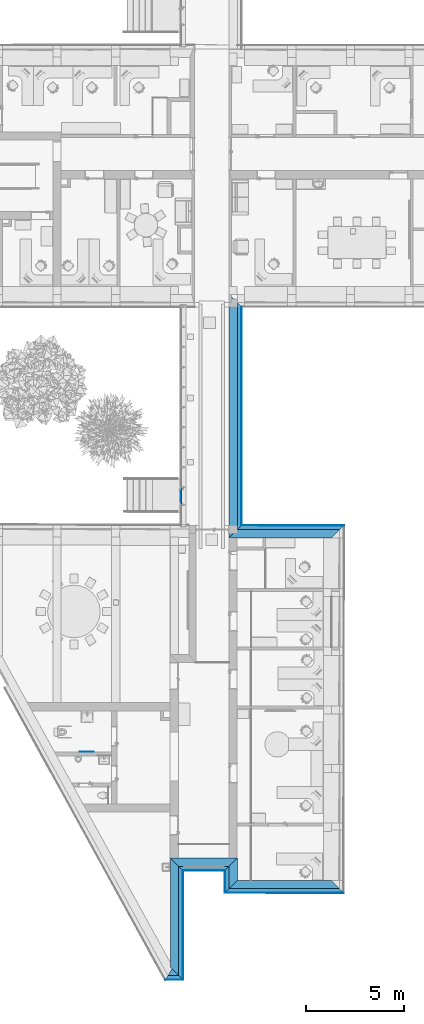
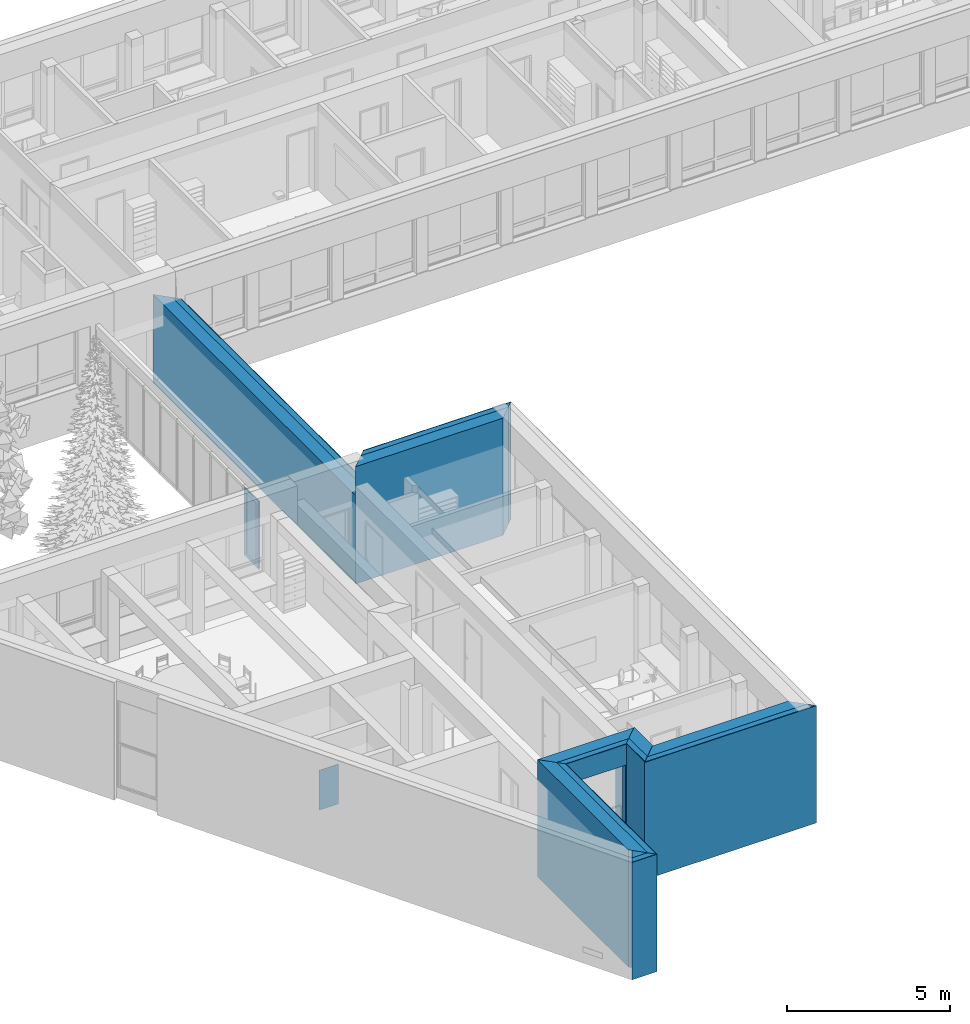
# One storey, part 34 of 194: 23 building element parts, 1 discrete accessory, 1 opening, 9 elements without a shape of their own.
"""IFC2X3 building model written with IfcOpenShell, lengths in millimetres."""

from ifc_helpers import new_model, entity, si_unit, converted_unit, derived_unit, money_unit, direction, frame, origin_with_axes, origin_2d_with_axis, place, context, subcontext, project, spatial, polyline, rectangle, outline, extrude, faceted_brep, source, transform, mapped, material, type_object, element, aggregate, save


model = new_model("IFC2X3")

# Units and contexts
model_context = context("Model", 3, precision=1e-05, world=origin_with_axes(), true_north=direction((0.0, 1.0)))
body_context = subcontext(model_context, "Body", "Model", "MODEL_VIEW")
ifc_project = project(units=[si_unit("LENGTHUNIT", "METRE", prefix="MILLI"), si_unit("AREAUNIT", "SQUARE_METRE"), si_unit("VOLUMEUNIT", "CUBIC_METRE"), converted_unit("PLANEANGLEUNIT", "DEGREE", entity("IfcPlaneAngleMeasure", 0.0174532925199), si_unit("PLANEANGLEUNIT", "RADIAN"), dimensions=[0, 0, 0, 0, 0, 0, 0]), si_unit("SOLIDANGLEUNIT", "STERADIAN"), money_unit("EUR"), converted_unit("TIMEUNIT", "Year", entity("IfcTimeMeasure", 31556926.0), si_unit("TIMEUNIT", "SECOND"), dimensions=[0, 0, 1, 0, 0, 0, 0]), si_unit("MASSUNIT", "GRAM", prefix="KILO"), si_unit("THERMODYNAMICTEMPERATUREUNIT", "DEGREE_CELSIUS"), si_unit("LUMINOUSINTENSITYUNIT", "LUMEN"), si_unit("ENERGYUNIT", "JOULE", prefix="MEGA"), derived_unit("THERMALCONDUCTANCEUNIT", [(si_unit("POWERUNIT", "WATT"), 1), (si_unit("LENGTHUNIT", "METRE"), -1), (si_unit("THERMODYNAMICTEMPERATUREUNIT", "KELVIN"), -1)]), derived_unit("SPECIFICHEATCAPACITYUNIT", [(si_unit("ENERGYUNIT", "JOULE"), 1), (si_unit("MASSUNIT", "GRAM", prefix="KILO"), -1), (si_unit("THERMODYNAMICTEMPERATUREUNIT", "KELVIN"), -1)]), derived_unit("MASSDENSITYUNIT", [(si_unit("MASSUNIT", "GRAM", prefix="KILO"), 1), (si_unit("VOLUMEUNIT", "CUBIC_METRE"), -1)])], contexts=[model_context])

# Site, building, storey
site_placement = place(None, origin_with_axes())
site = spatial("IfcSite", under=ifc_project, at=site_placement, Name="Site", CompositionType="ELEMENT")
building_placement = place(site_placement, origin_with_axes())
building = spatial("IfcBuilding", under=site, at=building_placement, Name="Building", CompositionType="ELEMENT")
storey_placement = place(building_placement, frame((0.0, 0.0, 3000.0), z_axis=(0.0, 0.0, 1.0), x_axis=(1.0, 0.0, 0.0)))
storey = spatial("IfcBuildingStorey", under=building, at=storey_placement, Name="2 KORRUS", CompositionType="ELEMENT", Elevation=3000.0)

# Discrete accessory
ifc_material_1 = material(Name="Peegel")
discrete_accessory_type = type_object("IfcDiscreteAccessoryType", Name="Peegel 5")
discrete_accessory_placement = place(storey_placement, frame((32117.6463825, 11384.2182637, 400.0), z_axis=(0.0, 0.0, 1.0), x_axis=(1.0, 0.0, 0.0)))
element("IfcDiscreteAccessory", 1, at=discrete_accessory_placement, inside=storey, type_object=discrete_accessory_type, material=ifc_material_1, Name="Peegel", context=body_context, shape_type="SweptSolid", body=[
    extrude(outline(polyline([(0.0, 0.0), (700.0, 0.0), (700.0, 5.00000000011), (0.0, 5.00000000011), (0.0, 0.0)])), origin_with_axes(), (0.0, 0.0, 1.0), 1500.0),
])

# Curtain wall, door, building element parts
curtain_wall_type = type_object("IfcCurtainWallType", Name="KS-2", PredefinedType="NOTDEFINED")
curtain_wall_placement = place(storey_placement, frame((37291.3079908, 33624.5964496, -0.000166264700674), z_axis=(0.0, 0.0, 1.0), x_axis=(1.0, 0.0, 0.0)))
curtain_wall = element("IfcCurtainWall", 2, at=curtain_wall_placement, inside=storey, type_object=curtain_wall_type, Name="KS")
door_style = type_object("IfcDoorStyle", Name="Distinct Panel 900 x 30 x 20", ConstructionType="NOTDEFINED", OperationType="NOTDEFINED", ParameterTakesPrecedence=False, Sizeable=False)
door_placement = place(curtain_wall_placement, frame((0.0, -9162.5, 1250.00017528), z_axis=(0.0, 0.0, 1.0), x_axis=(0.0, -1.0, 0.0)))
door = element("IfcDoor", 3, at=door_placement, type_object=door_style, Name="Välisuks * CW Door 22")
aggregate(curtain_wall, [door])
ifc_material_2 = material(Name="Alumiinium (1)")
shared_shape_1 = source(origin_with_axes(), body_context, "Body", "Brep", [
    faceted_brep([(-875.000010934, 0.0, -35.0), (-875.000010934, 0.0, -30.0), (-875.000010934, 2500.00035055, -30.0), (-875.000010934, 2500.00035055, -35.0), (-830.000010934, 0.0, -35.0), (-830.000010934, 0.0, -30.0), (-830.000010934, 2455.00035055, -30.0), (-830.000010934, 2455.00035055, -35.0)], [[[0, 1, 2, 3]], [[4, 5, 1, 0]], [[1, 5, 6, 2]], [[3, 2, 6, 7]], [[0, 3, 7, 4]], [[7, 6, 5, 4]]]),
    faceted_brep([(-25.0000035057, 2500.00035055, -35.0), (-25.0000035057, 2500.00035055, -30.0), (-70.0000035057, 2455.00035055, -30.0), (-70.0000035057, 2455.00035055, -35.0), (-875.000010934, 2500.00035055, -35.0), (-875.000010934, 2500.00035055, -30.0), (-830.000010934, 2455.00035055, -30.0), (-830.000010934, 2455.00035055, -35.0)], [[[0, 1, 2, 3]], [[4, 5, 1, 0]], [[1, 5, 6, 2]], [[3, 2, 6, 7]], [[0, 3, 7, 4]], [[7, 6, 5, 4]]]),
    faceted_brep([(-25.0000035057, 0.0, -35.0), (-25.0000035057, 0.0, -30.0), (-70.0000035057, 0.0, -30.0), (-70.0000035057, 0.0, -35.0), (-25.0000035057, 2500.00035055, -35.0), (-25.0000035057, 2500.00035055, -30.0), (-70.0000035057, 2455.00035055, -30.0), (-70.0000035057, 2455.00035055, -35.0)], [[[0, 1, 2, 3]], [[4, 5, 1, 0]], [[1, 5, 6, 2]], [[3, 2, 6, 7]], [[0, 3, 7, 4]], [[7, 6, 5, 4]]]),
    faceted_brep([(-875.000010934, 0.0, -30.0), (-875.000010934, 0.0, 20.0), (-875.000010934, 2500.00035055, 20.0), (-875.000010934, 2500.00035055, -30.0), (-855.000010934, 0.0, -30.0), (-855.000010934, 0.0, 20.0), (-855.000010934, 2480.00035055, 20.0), (-855.000010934, 2480.00035055, -30.0)], [[[0, 1, 2, 3]], [[4, 5, 1, 0]], [[1, 5, 6, 2]], [[3, 2, 6, 7]], [[0, 3, 7, 4]], [[7, 6, 5, 4]]]),
    faceted_brep([(-25.0000035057, 2500.00035055, -30.0), (-25.0000035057, 2500.00035055, 20.0), (-45.0000035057, 2480.00035055, 20.0), (-45.0000035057, 2480.00035055, -30.0), (-875.000010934, 2500.00035055, -30.0), (-875.000010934, 2500.00035055, 20.0), (-855.000010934, 2480.00035055, 20.0), (-855.000010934, 2480.00035055, -30.0)], [[[0, 1, 2, 3]], [[4, 5, 1, 0]], [[1, 5, 6, 2]], [[3, 2, 6, 7]], [[0, 3, 7, 4]], [[7, 6, 5, 4]]]),
    faceted_brep([(-25.0000035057, 0.0, -30.0), (-25.0000035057, 0.0, 20.0), (-45.0000035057, 0.0, 20.0), (-45.0000035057, 0.0, -30.0), (-25.0000035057, 2500.00035055, -30.0), (-25.0000035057, 2500.00035055, 20.0), (-45.0000035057, 2480.00035055, 20.0), (-45.0000035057, 2480.00035055, -30.0)], [[[0, 1, 2, 3]], [[4, 5, 1, 0]], [[1, 5, 6, 2]], [[3, 2, 6, 7]], [[0, 3, 7, 4]], [[7, 6, 5, 4]]]),
    faceted_brep([(5.00000000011, -30.0, -10.0), (5.00000000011, -30.0, 10.0), (-905.000000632, -30.0, 10.0), (-905.000000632, -30.0, -10.0), (-25.0000035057, 0.0, -10.0), (-25.0000035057, 0.0, 10.0), (-875.000010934, 0.0, 10.0), (-875.000010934, 0.0, -10.0)], [[[0, 1, 2, 3]], [[4, 5, 1, 0]], [[1, 5, 6, 2]], [[3, 2, 6, 7]], [[0, 3, 7, 4]], [[7, 6, 5, 4]]]),
    faceted_brep([(-905.000000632, -30.0, -10.0), (-905.000000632, -30.0, 10.0), (-905.000000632, 2530.00035055, 10.0), (-905.000000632, 2530.00035055, -10.0), (-875.000010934, 0.0, -10.0), (-875.000010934, 0.0, 10.0), (-875.000010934, 2500.00035055, 10.0), (-875.000010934, 2500.00035055, -10.0)], [[[0, 1, 2, 3]], [[4, 5, 1, 0]], [[1, 5, 6, 2]], [[3, 2, 6, 7]], [[0, 3, 7, 4]], [[7, 6, 5, 4]]]),
    faceted_brep([(-905.000000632, 2530.00035055, -10.0), (-905.000000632, 2530.00035055, 10.0), (5.00000000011, 2530.00035055, 10.0), (5.00000000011, 2530.00035055, -10.0), (-875.000010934, 2500.00035055, -10.0), (-875.000010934, 2500.00035055, 10.0), (-25.0000035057, 2500.00035055, 10.0), (-25.0000035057, 2500.00035055, -10.0)], [[[0, 1, 2, 3]], [[4, 5, 1, 0]], [[1, 5, 6, 2]], [[3, 2, 6, 7]], [[0, 3, 7, 4]], [[7, 6, 5, 4]]]),
    faceted_brep([(5.00000000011, 2530.00035055, -10.0), (5.00000000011, 2530.00035055, 10.0), (5.00000000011, -30.0, 10.0), (5.00000000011, -30.0, -10.0), (-25.0000035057, 2500.00035055, -10.0), (-25.0000035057, 2500.00035055, 10.0), (-25.0000035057, 0.0, 10.0), (-25.0000035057, 0.0, -10.0)], [[[0, 1, 2, 3]], [[4, 5, 1, 0]], [[1, 5, 6, 2]], [[3, 2, 6, 7]], [[0, 3, 7, 4]], [[7, 6, 5, 4]]]),
    faceted_brep([(-165.000003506, 120.0, -30.0), (-165.000003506, 120.0, 20.0), (-165.000003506, 2360.00035055, 20.0), (-165.000003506, 2360.00035055, -30.0), (-45.0000035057, 0.0, -30.0), (-45.0000035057, 0.0, 20.0), (-45.0000035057, 2480.00035055, 20.0), (-45.0000035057, 2480.00035055, -30.0)], [[[0, 1, 2, 3]], [[4, 5, 1, 0]], [[1, 5, 6, 2]], [[3, 2, 6, 7]], [[0, 3, 7, 4]], [[7, 6, 5, 4]]]),
    faceted_brep([(-855.000010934, 0.0, -30.0), (-855.000010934, 0.0, 20.0), (-855.000010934, 2480.00035055, 20.0), (-855.000010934, 2480.00035055, -30.0), (-735.000010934, 120.0, -30.0), (-735.000010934, 120.0, 20.0), (-735.000010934, 2360.00035055, 20.0), (-735.000010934, 2360.00035055, -30.0)], [[[0, 1, 2, 3]], [[4, 5, 1, 0]], [[1, 5, 6, 2]], [[3, 2, 6, 7]], [[0, 3, 7, 4]], [[7, 6, 5, 4]]]),
    faceted_brep([(-855.000010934, 0.0, -30.0), (-855.000010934, 0.0, 20.0), (-735.000010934, 120.0, 20.0), (-735.000010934, 120.0, -30.0), (-45.0000035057, 0.0, -30.0), (-45.0000035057, 0.0, 20.0), (-165.000003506, 120.0, 20.0), (-165.000003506, 120.0, -30.0)], [[[0, 1, 2, 3]], [[4, 5, 1, 0]], [[1, 5, 6, 2]], [[3, 2, 6, 7]], [[0, 3, 7, 4]], [[7, 6, 5, 4]]]),
    faceted_brep([(-45.0000035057, 2480.00035055, -30.0), (-45.0000035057, 2480.00035055, 20.0), (-165.000003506, 2360.00035055, 20.0), (-165.000003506, 2360.00035055, -30.0), (-855.000010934, 2480.00035055, -30.0), (-855.000010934, 2480.00035055, 20.0), (-735.000010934, 2360.00035055, 20.0), (-735.000010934, 2360.00035055, -30.0)], [[[0, 1, 2, 3]], [[4, 5, 1, 0]], [[1, 5, 6, 2]], [[3, 2, 6, 7]], [[0, 3, 7, 4]], [[7, 6, 5, 4]]]),
])
building_element_part_1_placement = place(door_placement, origin_with_axes())
building_element_part_1 = element("IfcBuildingElementPart", 4, at=building_element_part_1_placement, material=ifc_material_2, Name="Alumiinium (1)", context=body_context, shape_type="MappedRepresentation", body=[
    mapped(shared_shape_1, transform((449.999999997, 0.0, -1250.00017528), x_axis=(1.0, 0.0, 0.0), y_axis=(0.0, 0.0, 1.0), z_axis=(0.0, -1.0, 0.0))),
])
ifc_material_3 = material(Name="Klaas (1)")
shared_shape_2 = source(origin_with_axes(), body_context, "Body", "Brep", [
    faceted_brep([(-165.000003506, 120.0, -6.0), (-165.000003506, 120.0, 10.0), (-735.000010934, 120.0, 10.0), (-735.000010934, 120.0, -6.0), (-165.000003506, 2360.00035055, -6.0), (-165.000003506, 2360.00035055, 10.0), (-735.000010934, 2360.00035055, 10.0), (-735.000010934, 2360.00035055, -6.0)], [[[0, 1, 2, 3]], [[4, 5, 1, 0]], [[1, 5, 6, 2]], [[3, 2, 6, 7]], [[0, 3, 7, 4]], [[7, 6, 5, 4]]]),
])
building_element_part_2_placement = place(door_placement, origin_with_axes())
building_element_part_2 = element("IfcBuildingElementPart", 5, at=building_element_part_2_placement, material=ifc_material_3, Name="Klaas (1)", context=body_context, shape_type="MappedRepresentation", body=[
    mapped(shared_shape_2, transform((449.999999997, 0.0, -1250.00017528), x_axis=(1.0, 0.0, 0.0), y_axis=(0.0, 0.0, 1.0), z_axis=(0.0, -1.0, 0.0))),
])
aggregate(door, [building_element_part_1, building_element_part_2])

# Wall, building element parts
wall_type_1 = type_object("IfcWallType", Name="VS4", PredefinedType="NOTDEFINED")
wall_1_placement = place(storey_placement, frame((37166.9467048, -55.9065373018, -420.0), z_axis=(0.0, 0.0, 1.0), x_axis=(0.0, 1.0, 0.0)))
wall_1 = element("IfcWall", 6, at=wall_1_placement, inside=storey, type_object=wall_type_1, Name="VS4")
ifc_material_4 = material(Name="Tellis - Konstuktsioon")
building_element_part_3_placement = place(wall_1_placement, origin_with_axes())
building_element_part_3 = element("IfcBuildingElementPart", 7, at=building_element_part_3_placement, material=ifc_material_4, Name="Tellis - Konstuktsioon", context=body_context, shape_type="SweptSolid", body=[
    extrude(outline(polyline([(0.0, 0.0), (5583.0090785, 0.0), (6013.26472851, 430.0), (429.999999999, 430.0), (0.0, 0.0)])), origin_with_axes(), (0.0, 0.0, 1.0), 4400.0),
])
ifc_material_5 = material(Name="Soojustus - Plastik Kõva")
building_element_part_4_placement = place(wall_1_placement, origin_with_axes())
building_element_part_4 = element("IfcBuildingElementPart", 8, at=building_element_part_4_placement, material=ifc_material_5, Name="Soojustus - Plastik Kõva", context=body_context, shape_type="SweptSolid", body=[
    extrude(outline(polyline([(-200.0, -200.0), (5382.89017152, -200.0), (5583.0090785, 0.0), (0.0, 0.0), (-200.0, -200.0)])), origin_with_axes(), (0.0, 0.0, 1.0), 4400.0),
])
ifc_material_6 = material(Name="Tellis - Viimistlus")
building_element_part_5_placement = place(wall_1_placement, origin_with_axes())
building_element_part_5 = element("IfcBuildingElementPart", 9, at=building_element_part_5_placement, material=ifc_material_6, Name="Tellis - Viimistlus", context=body_context, shape_type="SweptSolid", body=[
    extrude(outline(polyline([(-220.0, -220.0), (5362.87828082, -220.0), (5382.89017152, -200.0), (-200.0, -200.0), (-220.0, -220.0)])), origin_with_axes(), (0.0, 0.0, 1.0), 4400.0),
])
aggregate(wall_1, [building_element_part_3, building_element_part_4, building_element_part_5])

# Wall, opening, building element parts
wall_2_placement = place(storey_placement, frame((37166.9467048, 5527.1025412, -420.0), z_axis=(0.0, 0.0, 1.0), x_axis=(0.999999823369, -0.000594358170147, 0.0)))
wall_2 = element("IfcWall", 10, at=wall_2_placement, inside=storey, type_object=wall_type_1, Name="VS4")
opening_placement = place(wall_2_placement, frame((1276.32422598, 0.0, 420.0), z_axis=(0.0, 0.0, 1.0), x_axis=(1.0, 0.0, 0.0)))
element("IfcOpeningElement", 11, at=opening_placement, cuts=wall_2, Name="välisaken * Double Window 22", context=body_context, shape_type="SweptSolid", body=[
    extrude(rectangle(XDim=2117.0, YDim=3200.0, at=origin_2d_with_axis()), frame((0.0, -19.9999999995, 1600.0), z_axis=(0.0, -1.0, 0.0), x_axis=(1.0, 0.0, 0.0)), (0.0, 0.0, -1.0), 1100.0),
    extrude(rectangle(XDim=2117.0, YDim=3200.0, at=origin_2d_with_axis()), frame((-1.13686837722e-10, -19.9999999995, 1600.0), z_axis=(0.0, 1.0, 0.0), x_axis=(1.0, 0.0, 0.0)), (0.0, 0.0, -1.0), 850.000000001),
])
building_element_part_6_placement = place(wall_2_placement, origin_with_axes())
building_element_part_6 = element("IfcBuildingElementPart", 12, at=building_element_part_6_placement, material=ifc_material_4, Name="Tellis - Konstuktsioon", context=body_context, shape_type="SweptSolid", body=[
    extrude(outline(polyline([(0.0, 0.0), (2567.09365053, 9.09494701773e-10), (2996.83815242, 430.0), (-430.25565001, 429.999999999), (0.0, 0.0)])), origin_with_axes(), (0.0, 0.0, 1.0), 4400.0),
])
building_element_part_7_placement = place(wall_2_placement, origin_with_axes())
building_element_part_7 = element("IfcBuildingElementPart", 13, at=building_element_part_7_placement, material=ifc_material_5, Name="Soojustus - Plastik Kõva", context=body_context, shape_type="SweptSolid", body=[
    extrude(outline(polyline([(200.118906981, -200.0), (2367.21248685, -200.0), (2567.09365053, 9.09494701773e-10), (0.0, 0.0), (200.118906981, -200.0)])), origin_with_axes(), (0.0, 0.0, 1.0), 4400.0),
])
building_element_part_8_placement = place(wall_2_placement, origin_with_axes())
building_element_part_8 = element("IfcBuildingElementPart", 14, at=building_element_part_8_placement, material=ifc_material_6, Name="Tellis - Viimistlus", context=body_context, shape_type="SweptSolid", body=[
    extrude(outline(polyline([(220.130797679, -220.0), (2347.22437049, -220.0), (2367.21248685, -200.0), (200.118906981, -200.0), (220.130797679, -220.0)])), origin_with_axes(), (0.0, 0.0, 1.0), 4400.0),
])
aggregate(wall_2, [building_element_part_6, building_element_part_7, building_element_part_8])

# Wall, building element parts
wall_3_placement = place(storey_placement, frame((40164.4429588, 34351.5716531, -400.0), z_axis=(0.0, 0.0, 1.0), x_axis=(0.000472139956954, -0.999999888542, 0.0)))
wall_3 = element("IfcWall", 15, at=wall_3_placement, inside=storey, type_object=wall_type_1, Name="VS4")
building_element_part_9_placement = place(wall_3_placement, origin_with_axes())
building_element_part_9 = element("IfcBuildingElementPart", 16, at=building_element_part_9_placement, material=ifc_material_4, Name="Tellis - Konstuktsioon", context=body_context, shape_type="SweptSolid", body=[
    extrude(outline(polyline([(-430.166397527, -430.0), (12016.7384228, -430.0), (11588.1297807, 0.0), (0.0, 0.0), (-430.166397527, -430.0)])), origin_with_axes(), (0.0, 0.0, 1.0), 3300.0),
])
building_element_part_10_placement = place(wall_3_placement, origin_with_axes())
building_element_part_10 = element("IfcBuildingElementPart", 17, at=building_element_part_10_placement, material=ifc_material_5, Name="Soojustus - Plastik Kõva", context=body_context, shape_type="SweptSolid", body=[
    extrude(outline(polyline([(0.0, 0.0), (11588.1297807, 0.0), (11388.776924, 200.0), (200.077394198, 200.0), (0.0, 0.0)])), origin_with_axes(), (0.0, 0.0, 1.0), 3300.0),
])
building_element_part_11_placement = place(wall_3_placement, origin_with_axes())
building_element_part_11 = element("IfcBuildingElementPart", 18, at=building_element_part_11_placement, material=ifc_material_6, Name="Tellis - Viimistlus", context=body_context, shape_type="SweptSolid", body=[
    extrude(outline(polyline([(200.077394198, 200.0), (11388.776924, 200.0), (11368.8416383, 220.0), (220.085133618, 220.0), (200.077394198, 200.0)])), origin_with_axes(), (0.0, 0.0, 1.0), 3300.0),
])
aggregate(wall_3, [building_element_part_9, building_element_part_10, building_element_part_11])

wall_4_placement = place(storey_placement, frame((40169.9141779, 22763.443164, -420.0), z_axis=(0.0, 0.0, 1.0), x_axis=(0.999996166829, -0.00276881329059, 0.0)))
wall_4 = element("IfcWall", 19, at=wall_4_placement, inside=storey, type_object=wall_type_1, Name="VS4")
building_element_part_12_placement = place(wall_4_placement, origin_with_axes())
building_element_part_12 = element("IfcBuildingElementPart", 20, at=building_element_part_12_placement, material=ifc_material_4, Name="Tellis - Konstuktsioon", context=body_context, shape_type="SweptSolid", body=[
    extrude(outline(polyline([(-428.608642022, -430.0), (4799.94649084, -430.0), (5228.99583615, 0.0), (-1.13686837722e-10, -9.09494701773e-10), (-428.608642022, -430.0)])), origin_with_axes(), (0.0, 0.0, 1.0), 4400.0),
])
building_element_part_13_placement = place(wall_4_placement, origin_with_axes())
building_element_part_13 = element("IfcBuildingElementPart", 21, at=building_element_part_13_placement, material=ifc_material_5, Name="Soojustus - Plastik Kõva", context=body_context, shape_type="SweptSolid", body=[
    extrude(outline(polyline([(-1.13686837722e-10, -9.09494701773e-10), (5228.99583615, 0.0), (5428.55367118, 200.0), (199.352856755, 199.999999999), (-1.13686837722e-10, -9.09494701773e-10)])), origin_with_axes(), (0.0, 0.0, 1.0), 4400.0),
])
building_element_part_14_placement = place(wall_4_placement, origin_with_axes())
building_element_part_14 = element("IfcBuildingElementPart", 22, at=building_element_part_14_placement, material=ifc_material_6, Name="Tellis - Viimistlus", context=body_context, shape_type="SweptSolid", body=[
    extrude(outline(polyline([(199.352856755, 199.999999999), (5428.55367118, 200.0), (5448.50945468, 219.999999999), (219.28814243, 219.999999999), (199.352856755, 199.999999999)])), origin_with_axes(), (0.0, 0.0, 1.0), 4400.0),
])
aggregate(wall_4, [building_element_part_12, building_element_part_13, building_element_part_14])

wall_5_placement = place(storey_placement, frame((39734.0399019, 4393.00948551, -420.0), z_axis=(0.0, 0.0, 1.0), x_axis=(0.999999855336, -0.000537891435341, 0.0)))
wall_5 = element("IfcWall", 23, at=wall_5_placement, inside=storey, type_object=wall_type_1, Name="VS4")
building_element_part_15_placement = place(wall_5_placement, origin_with_axes())
building_element_part_15 = element("IfcBuildingElementPart", 24, at=building_element_part_15_placement, material=ifc_material_4, Name="Tellis - Konstuktsioon", context=body_context, shape_type="SweptSolid", body=[
    extrude(outline(polyline([(0.0, 0.0), (5654.6516125, 0.0), (5224.65920402, 430.0), (429.768768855, 429.999999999), (0.0, 0.0)])), origin_with_axes(), (0.0, 0.0, 1.0), 4400.0),
])
building_element_part_16_placement = place(wall_5_placement, origin_with_axes())
building_element_part_16 = element("IfcBuildingElementPart", 25, at=building_element_part_16_placement, material=ifc_material_5, Name="Soojustus - Plastik Kõva", context=body_context, shape_type="SweptSolid", body=[
    extrude(outline(polyline([(-199.89245063, -200.000000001), (5854.64808156, -200.000000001), (5654.6516125, 0.0), (0.0, 0.0), (-199.89245063, -200.000000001)])), origin_with_axes(), (0.0, 0.0, 1.0), 4400.0),
])
building_element_part_17_placement = place(wall_5_placement, origin_with_axes())
building_element_part_17 = element("IfcBuildingElementPart", 26, at=building_element_part_17_placement, material=ifc_material_6, Name="Tellis - Viimistlus", context=body_context, shape_type="SweptSolid", body=[
    extrude(outline(polyline([(-219.881695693, -220.0), (5874.64772847, -220.0), (5854.64808156, -200.000000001), (-199.89245063, -200.000000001), (-219.881695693, -220.0)])), origin_with_axes(), (0.0, 0.0, 1.0), 4400.0),
])
aggregate(wall_5, [building_element_part_15, building_element_part_16, building_element_part_17])

wall_type_2 = type_object("IfcWallType", Name="VS-4", PredefinedType="NOTDEFINED")
wall_6_placement = place(storey_placement, frame((39734.0399019, 4393.00948551, -400.0), z_axis=(0.0, 0.0, 1.0), x_axis=(0.0, 1.0, 0.0)))
wall_6 = element("IfcWall", 27, at=wall_6_placement, inside=storey, type_object=wall_type_2, Name="VS4")
building_element_part_18_placement = place(wall_6_placement, origin_with_axes())
building_element_part_18 = element("IfcBuildingElementPart", 28, at=building_element_part_18_placement, material=ifc_material_4, Name="Tellis - Konstuktsioon", context=body_context, shape_type="SweptSolid", body=[
    extrude(outline(polyline([(429.768768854, -430.0), (1562.3117845, -430.0), (1132.56728261, 0.0), (0.0, 0.0), (429.768768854, -430.0)])), origin_with_axes(), (0.0, 0.0, 1.0), 4400.0),
])
building_element_part_19_placement = place(wall_6_placement, origin_with_axes())
building_element_part_19 = element("IfcBuildingElementPart", 29, at=building_element_part_19_placement, material=ifc_material_5, Name="Soojustus - Plastik Kõva", context=body_context, shape_type="SweptSolid", body=[
    extrude(outline(polyline([(0.0, 0.0), (1132.56728261, 0.0), (932.686118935, 200.0), (-199.892450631, 200.0), (0.0, 0.0)])), origin_with_axes(), (0.0, 0.0, 1.0), 4400.0),
])
building_element_part_20_placement = place(wall_6_placement, origin_with_axes())
building_element_part_20 = element("IfcBuildingElementPart", 30, at=building_element_part_20_placement, material=ifc_material_6, Name="Tellis - Viimistlus", context=body_context, shape_type="SweptSolid", body=[
    extrude(outline(polyline([(-199.892450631, 200.0), (932.686118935, 200.0), (912.698002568, 220.0), (-219.881695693, 220.0), (-199.892450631, 200.0)])), origin_with_axes(), (0.0, 0.0, 1.0), 4400.0),
])
aggregate(wall_6, [building_element_part_18, building_element_part_19, building_element_part_20])

wall_7_placement = place(storey_placement, frame((36615.2626598, -55.9065373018, -420.0), z_axis=(0.0, 0.0, 1.0), x_axis=(1.0, 0.0, 0.0)))
wall_7 = element("IfcWall", 31, at=wall_7_placement, inside=storey, type_object=wall_type_1, Name="VS4")
building_element_part_21_placement = place(wall_7_placement, origin_with_axes())
building_element_part_21 = element("IfcBuildingElementPart", 32, at=building_element_part_21_placement, material=ifc_material_4, Name="Tellis - Konstuktsioon", context=body_context, shape_type="SweptSolid", body=[
    extrude(outline(polyline([(6.8212102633e-10, 0.0), (551.684044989, 0.0), (121.684044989, 429.999999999), (254.246066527, 429.999999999), (6.8212102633e-10, 0.0)])), origin_with_axes(), (0.0, 0.0, 1.0), 4400.0),
])
building_element_part_22_placement = place(wall_7_placement, origin_with_axes())
building_element_part_22 = element("IfcBuildingElementPart", 33, at=building_element_part_22_placement, material=ifc_material_5, Name="Soojustus - Plastik Kõva", context=body_context, shape_type="SweptSolid", body=[
    extrude(outline(polyline([(-118.25398443, -200.0), (751.684044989, -200.0), (551.684044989, 0.0), (6.8212102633e-10, 0.0), (-118.25398443, -200.0)])), origin_with_axes(), (0.0, 0.0, 1.0), 4400.0),
])
building_element_part_23_placement = place(wall_7_placement, origin_with_axes())
building_element_part_23 = element("IfcBuildingElementPart", 34, at=building_element_part_23_placement, material=ifc_material_6, Name="Tellis - Viimistlus", context=body_context, shape_type="SweptSolid", body=[
    extrude(outline(polyline([(-130.079382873, -220.0), (771.684044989, -220.0), (751.684044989, -200.0), (-118.25398443, -200.0), (-130.079382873, -220.0)])), origin_with_axes(), (0.0, 0.0, 1.0), 4400.0),
])
aggregate(wall_7, [building_element_part_21, building_element_part_22, building_element_part_23])

save(model, "model.ifc")
